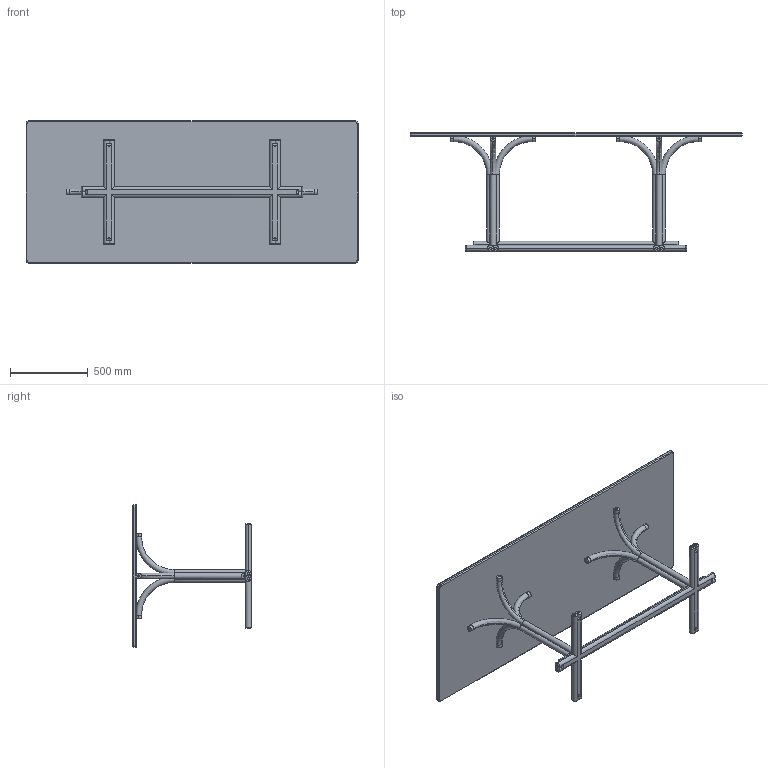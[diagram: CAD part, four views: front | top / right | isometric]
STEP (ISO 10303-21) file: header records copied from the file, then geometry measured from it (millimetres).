
FILE_DESCRIPTION (( 'STEP AP214' ), '1' );
FILE_NAME ('Lexington Table_JMS_STP.STEP', '2021-04-09T19:07:06', ( '' ), ( '' ), 'SwSTEP 2.0', 'SolidWorks 2021', '' );
FILE_SCHEMA (( 'AUTOMOTIVE_DESIGN' ));
Length unit declared in the file: millimetre
Products named in the file (1): Lexington Table_JMS_STP
Bounding box: 2133.6 x 762 x 914.4 mm (x, y, z)
Volume: 63796020.5 mm3; surface area: 5128003 mm2
Topology: 1 solids, 1 shells, 225 faces, 587 edges, 352 vertices
Faces by surface type: cylinder 102, plane 49, bspline 44, torus 30
Entity records: 17503 total; most frequent: CARTESIAN_POINT 10346, ORIENTED_EDGE 1162, DIRECTION 763, EDGE_CURVE 581, VERTEX_POINT 352, AXIS2_PLACEMENT_3D 312, EDGE_LOOP 233, UNCERTAINTY_MEASURE_WITH_UNIT 226
